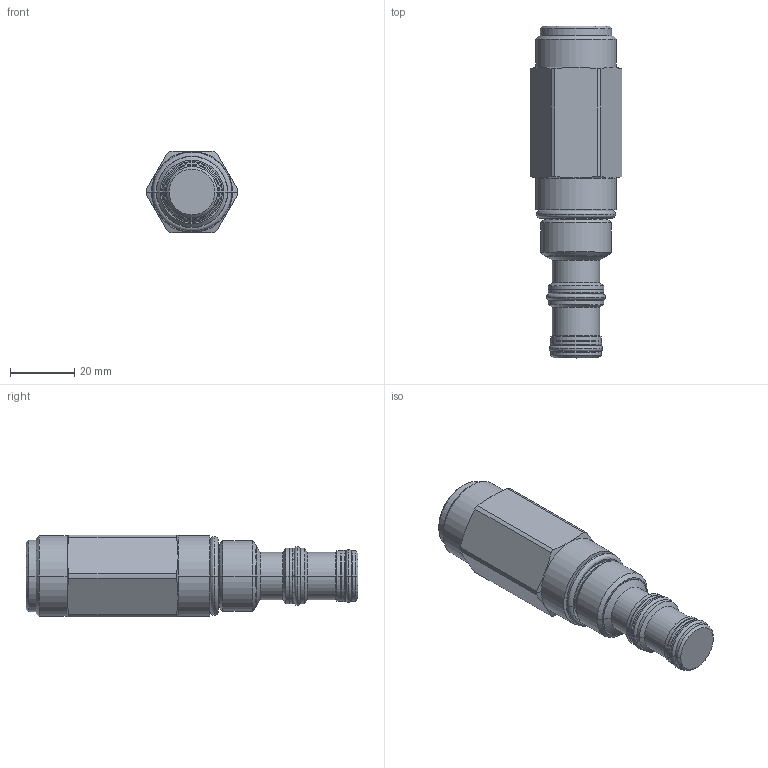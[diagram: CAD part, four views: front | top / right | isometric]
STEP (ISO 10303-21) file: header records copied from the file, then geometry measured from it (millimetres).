
FILE_DESCRIPTION((''),'2;1');
FILE_NAME('PRT0010','2009-03-24T',('jcs'),(''),'PRO/ENGINEER BY PARAMETRIC TECHNOLOGY CORPORATION, 2008510','PRO/ENGINEER BY PARAMETRIC TECHNOLOGY CORPORATION, 2008510','');
FILE_SCHEMA(('CONFIG_CONTROL_DESIGN'));
Length unit declared in the file: inch
Products named in the file (1): PRT0010
Bounding box: 28.57 x 103.14 x 25.4 mm (x, y, z)
Volume: 41476.9 mm3; surface area: 10011.7 mm2
Topology: 5 solids, 5 shells, 127 faces, 266 edges, 150 vertices
Faces by surface type: cylinder 40, revolution 24, torus 24, cone 22, plane 17
Entity records: 3918 total; most frequent: CARTESIAN_POINT 1119, DIRECTION 622, ORIENTED_EDGE 532, EDGE_CURVE 266, AXIS2_PLACEMENT_3D 265, CIRCLE 162, VERTEX_POINT 150, EDGE_LOOP 136
